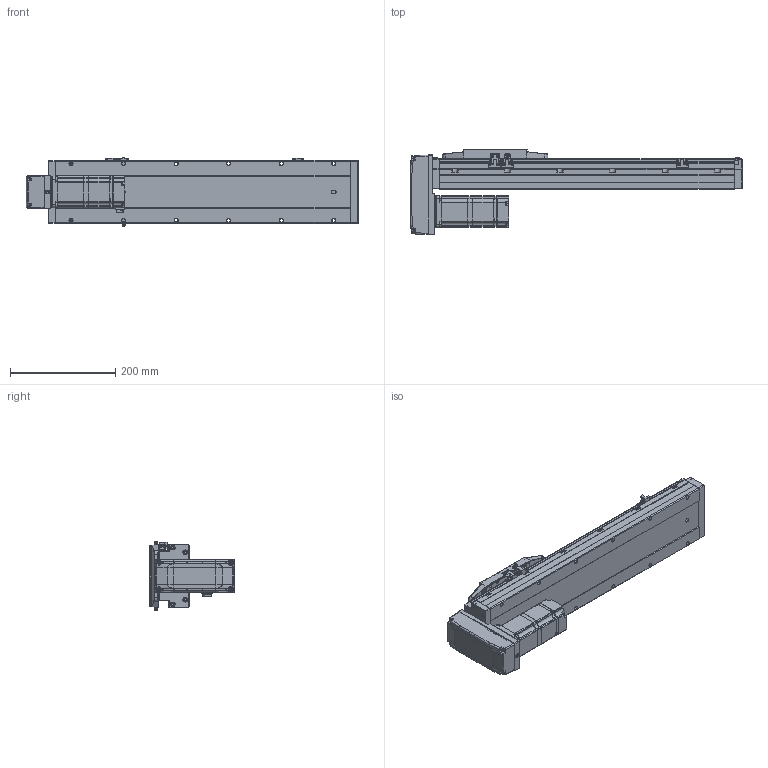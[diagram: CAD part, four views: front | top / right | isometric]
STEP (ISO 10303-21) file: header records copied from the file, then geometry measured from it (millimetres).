
FILE_DESCRIPTION (( 'STEP AP214' ), '1' );
FILE_NAME ('CTH12-L10-S350-BM-C40（简）.STEP', '2023-02-04T06:50:46', ( '' ), ( '' ), 'SwSTEP 2.0', 'SolidWorks 2018', '' );
FILE_SCHEMA (( 'AUTOMOTIVE_DESIGN' ));
Length unit declared in the file: millimetre
Products named in the file (25): hex nuts, style 1-grades ab gb_GB_FASTENER_NUT_SNAB1 M3-N; CTH12賑怢ㄗ潠ㄘ; 湮賑怢  裔赽-1(CTH12)賑怢; CTH12賑怢郪磁; 嫖萇羲壽郪磁2; CTH12-BM-02; 内六角圆柱头螺钉M5装饰螺钉; CTH12底座-L561简（350行程）; CTH12_body_3; AC60_Valor predeterminado; 内六角圆柱头螺钉M3-1; BM-C40; CTH嫖萇羲壽假蚾啣; 内六角圆柱头螺钉M3-2; CTH12-BL_body_4; CTH12; PM-Y45; CTH12-L10-S350-BM-C40（简）; CTH400W假蚾啣; 蚐郲; CTH400W垫板（3个厚）; 内六角圆柱头螺钉M3; 嫖萇羲壽郪磁1; CTH12覜茼え; CTH8耜蚾蟀諉啣ㄗ潠ㄘ
Assembly tree (45 placements, depth 4):
  CTH12-L10-S350-BM-C40（简）
    CTH12底座-L561简（350行程）
    蚐郲  x2
    CTH12_body_3
    CTH12-BL_body_4
    CTH12賑怢郪磁
      CTH12
        湮賑怢  裔赽-1(CTH12)賑怢
        CTH12賑怢ㄗ潠ㄘ
    CTH12覜茼え
    嫖萇羲壽郪磁1  x2
      CTH嫖萇羲壽假蚾啣
      PM-Y45
      内六角圆柱头螺钉M3-2
      内六角圆柱头螺钉M3-1
      hex nuts, style 1-grades ab gb_GB_FASTENER_NUT_SNAB1 M3-N
    嫖萇羲壽郪磁2
      CTH嫖萇羲壽假蚾啣
      PM-Y45
      内六角圆柱头螺钉M3-1  x2
      内六角圆柱头螺钉M3-2  x2
      hex nuts, style 1-grades ab gb_GB_FASTENER_NUT_SNAB1 M3-N  x2
    BM-C40
      CTH12-BM-02
      CTH8耜蚾蟀諉啣ㄗ潠ㄘ
    CTH400W垫板（3个厚）
    AC60_Valor predeterminado
    内六角圆柱头螺钉M3  x6
    内六角圆柱头螺钉M5装饰螺钉  x4
    CTH400W假蚾啣
Bounding box: 631.5 x 162.5 x 131.52 mm (x, y, z)
Volume: 4502771.9 mm3; surface area: 511530 mm2
Topology: 47 solids, 48 shells, 2679 faces, 6781 edges, 4321 vertices
Faces by surface type: plane 1454, cylinder 802, cone 267, bspline 104, torus 52
Entity records: 72681 total; most frequent: CARTESIAN_POINT 16805, ORIENTED_EDGE 10742, DIRECTION 10672, EDGE_CURVE 5371, AXIS2_PLACEMENT_3D 3619, VECTOR 3434, LINE 3434, VERTEX_POINT 3425
